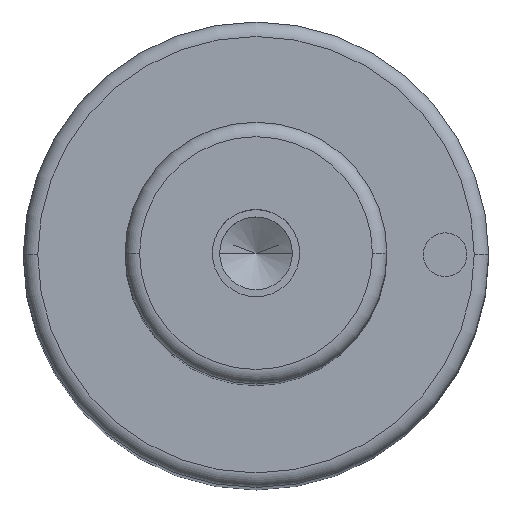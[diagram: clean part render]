
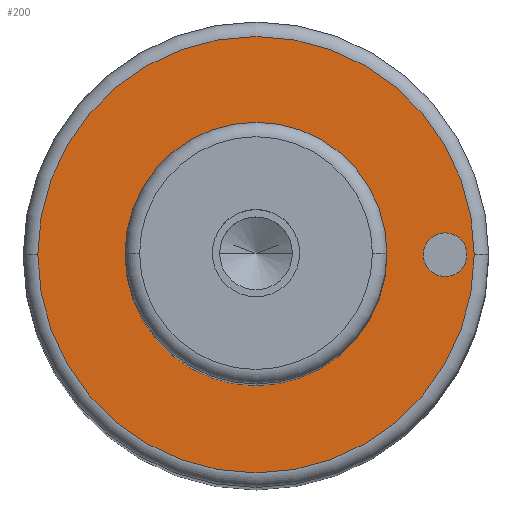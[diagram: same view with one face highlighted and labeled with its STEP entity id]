
A CAD part, top view. The second image highlights one B-rep face of the part: STEP entity #200.
In plain terms, the highlighted planar face has unit normal (0, 0, 1).
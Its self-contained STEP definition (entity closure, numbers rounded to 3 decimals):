
#99=PLANE('',#596);
#107=FACE_BOUND('',#265,.T.);
#108=FACE_BOUND('',#266,.T.);
#109=FACE_BOUND('',#267,.T.);
#200=ADVANCED_FACE('',(#107,#108,#109),#99,.T.);
#265=EDGE_LOOP('',(#359,#360));
#266=EDGE_LOOP('',(#361,#362));
#267=EDGE_LOOP('',(#363,#364));
#359=ORIENTED_EDGE('',*,*,#460,.F.);
#360=ORIENTED_EDGE('',*,*,#461,.F.);
#361=ORIENTED_EDGE('',*,*,#485,.F.);
#362=ORIENTED_EDGE('',*,*,#486,.F.);
#363=ORIENTED_EDGE('',*,*,#456,.T.);
#364=ORIENTED_EDGE('',*,*,#454,.T.);
#411=VERTEX_POINT('',#808);
#412=VERTEX_POINT('',#810);
#413=VERTEX_POINT('',#816);
#416=VERTEX_POINT('',#821);
#430=VERTEX_POINT('',#875);
#431=VERTEX_POINT('',#876);
#454=EDGE_CURVE('',#412,#411,#513,.T.);
#456=EDGE_CURVE('',#411,#412,#514,.T.);
#460=EDGE_CURVE('',#416,#413,#518,.T.);
#461=EDGE_CURVE('',#413,#416,#519,.T.);
#485=EDGE_CURVE('',#430,#431,#533,.T.);
#486=EDGE_CURVE('',#431,#430,#534,.T.);
#513=CIRCLE('',#558,9.);
#514=CIRCLE('',#560,9.);
#518=CIRCLE('',#565,15.);
#519=CIRCLE('',#567,15.);
#533=CIRCLE('',#594,1.5);
#534=CIRCLE('',#595,1.5);
#558=AXIS2_PLACEMENT_3D('',#809,#647,#648);
#560=AXIS2_PLACEMENT_3D('',#813,#652,#653);
#565=AXIS2_PLACEMENT_3D('',#822,#662,#663);
#567=AXIS2_PLACEMENT_3D('',#824,#666,#667);
#594=AXIS2_PLACEMENT_3D('',#874,#730,#731);
#595=AXIS2_PLACEMENT_3D('',#877,#732,#733);
#596=AXIS2_PLACEMENT_3D('',#878,#734,#735);
#647=DIRECTION('',(0.,0.,-1.));
#648=DIRECTION('',(0.,1.,0.));
#652=DIRECTION('',(0.,0.,-1.));
#653=DIRECTION('',(0.,-1.,0.));
#662=DIRECTION('',(0.,0.,-1.));
#663=DIRECTION('',(0.,1.,0.));
#666=DIRECTION('',(0.,0.,-1.));
#667=DIRECTION('',(0.,-1.,0.));
#730=DIRECTION('',(0.,0.,1.));
#731=DIRECTION('',(0.,1.,0.));
#732=DIRECTION('',(0.,0.,1.));
#733=DIRECTION('',(0.,-1.,0.));
#734=DIRECTION('',(0.,0.,1.));
#735=DIRECTION('',(0.,-1.,0.));
#808=CARTESIAN_POINT('',(-9.,0.,101.));
#809=CARTESIAN_POINT('',(0.,0.,101.));
#810=CARTESIAN_POINT('',(9.,0.,101.));
#813=CARTESIAN_POINT('',(0.,0.,101.));
#816=CARTESIAN_POINT('',(-15.,0.,101.));
#821=CARTESIAN_POINT('',(15.,0.,101.));
#822=CARTESIAN_POINT('',(0.,0.,101.));
#824=CARTESIAN_POINT('',(0.,0.,101.));
#874=CARTESIAN_POINT('',(13.,0.,101.));
#875=CARTESIAN_POINT('',(11.5,0.,101.));
#876=CARTESIAN_POINT('',(14.5,0.,101.));
#877=CARTESIAN_POINT('',(13.,0.,101.));
#878=CARTESIAN_POINT('',(0.,0.,101.));
